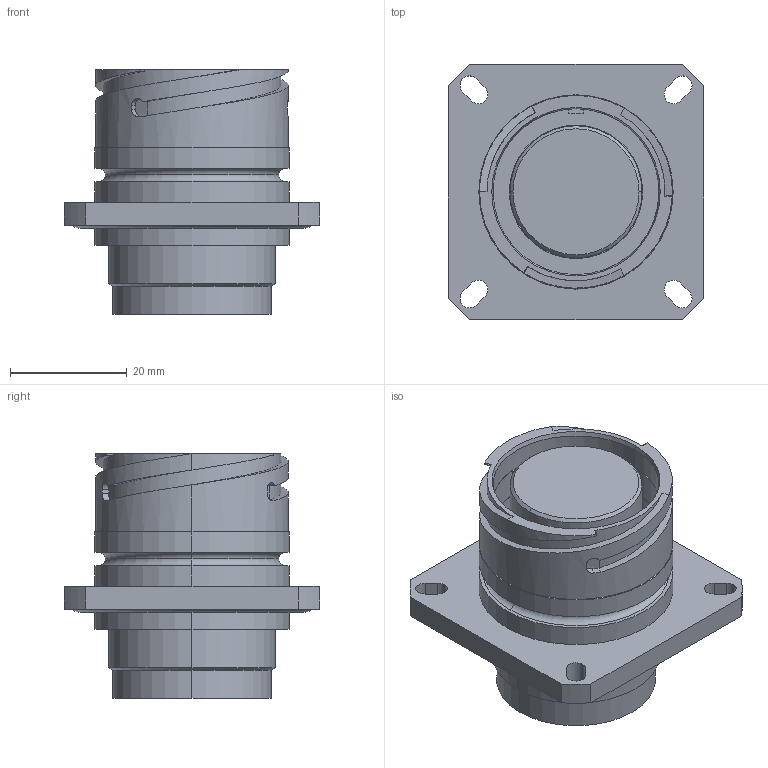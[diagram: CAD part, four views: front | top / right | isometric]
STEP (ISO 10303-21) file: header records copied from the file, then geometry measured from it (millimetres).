
FILE_DESCRIPTION (( 'STEP AP214' ), '1' );
FILE_NAME ('QLINK-RFBX-19XX-S00-R1.STEP', '2025-12-16T15:57:56', ( '' ), ( '' ), 'SwSTEP 2.0', 'SolidWorks 2024', '' );
FILE_SCHEMA (( 'AUTOMOTIVE_DESIGN' ));
Length unit declared in the file: millimetre
Products named in the file (1): QLINK-RFBX-19XX-S00-R1
Bounding box: 43.69 x 43.69 x 41.91 mm (x, y, z)
Volume: 30011.5 mm3; surface area: 13111.3 mm2
Topology: 2 solids, 2 shells, 144 faces, 348 edges, 219 vertices
Faces by surface type: cylinder 62, plane 42, torus 18, bspline 12, cone 10
Entity records: 5894 total; most frequent: CARTESIAN_POINT 2501, DIRECTION 723, ORIENTED_EDGE 696, EDGE_CURVE 348, AXIS2_PLACEMENT_3D 295, VERTEX_POINT 219, EDGE_LOOP 165, CIRCLE 162
